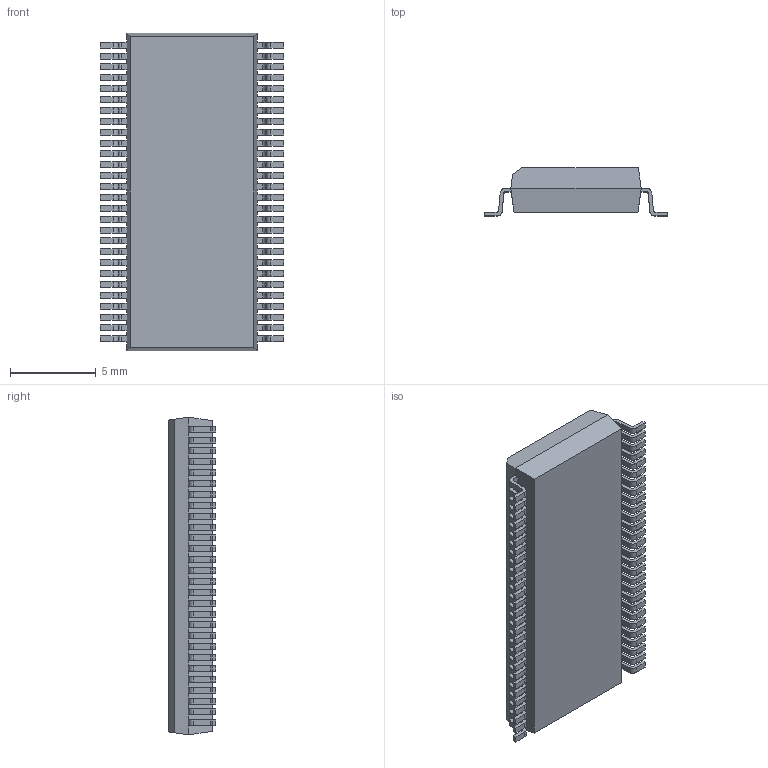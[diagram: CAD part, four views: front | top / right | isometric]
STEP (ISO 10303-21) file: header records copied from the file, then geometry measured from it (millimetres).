
FILE_DESCRIPTION (( 'STEP AP214' ), '1' );
FILE_NAME ('SOP63P1050X280-56_MO-118.AB.STEP', '2014-10-31T14:00:49', ( 'Tester2' ), ( '' ), 'SwSTEP 2.0', 'SolidWorks 2012', '' );
FILE_SCHEMA (( 'AUTOMOTIVE_DESIGN' ));
Length unit declared in the file: millimetre
Products named in the file (1): SOP63P1050X280-56_MO-118.AB
Bounding box: 10.7 x 2.8 x 18.54 mm (x, y, z)
Volume: 364.3 mm3; surface area: 564.3 mm2
Topology: 1 solids, 1 shells, 742 faces, 2213 edges, 1474 vertices
Faces by surface type: plane 516, cylinder 226
Entity records: 32912 total; most frequent: CARTESIAN_POINT 4430, ORIENTED_EDGE 4426, DIRECTION 4151, EDGE_CURVE 2213, LINE 1761, VECTOR 1761, VERTEX_POINT 1474, AXIS2_PLACEMENT_3D 1195
